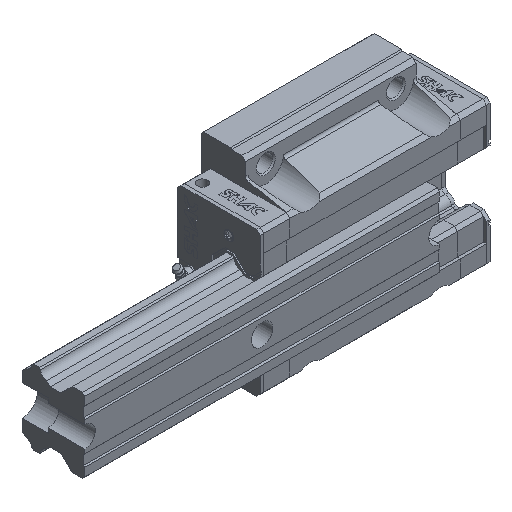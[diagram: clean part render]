
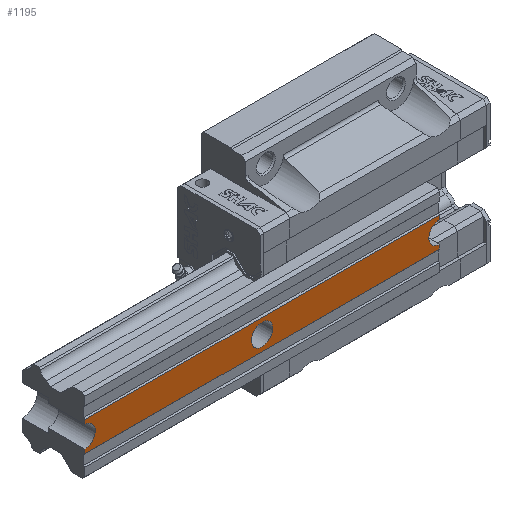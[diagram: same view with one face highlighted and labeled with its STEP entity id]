
A CAD part, isometric view. The second image highlights one B-rep face of the part: STEP entity #1195.
In plain terms, the highlighted planar face has unit normal (0, -1, 0).
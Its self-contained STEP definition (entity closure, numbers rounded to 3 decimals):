
#1195 = ADVANCED_FACE( '', ( #2561, #2562 ), #2563, .F. );
#2561 = FACE_BOUND( '', #4216, .T. );
#2562 = FACE_OUTER_BOUND( '', #4217, .T. );
#2563 = PLANE( '', #4218 );
#4216 = EDGE_LOOP( '', ( #7168 ) );
#4217 = EDGE_LOOP( '', ( #7169, #7170, #7171, #7172, #7173, #7174, #7175, #7176 ) );
#4218 = AXIS2_PLACEMENT_3D( '', #7177, #7178, #7179 );
#7168 = ORIENTED_EDGE( '', *, *, #9963, .F. );
#7169 = ORIENTED_EDGE( '', *, *, #10851, .F. );
#7170 = ORIENTED_EDGE( '', *, *, #10852, .F. );
#7171 = ORIENTED_EDGE( '', *, *, #10373, .F. );
#7172 = ORIENTED_EDGE( '', *, *, #10305, .F. );
#7173 = ORIENTED_EDGE( '', *, *, #10853, .T. );
#7174 = ORIENTED_EDGE( '', *, *, #10854, .T. );
#7175 = ORIENTED_EDGE( '', *, *, #10077, .F. );
#7176 = ORIENTED_EDGE( '', *, *, #10855, .T. );
#7177 = CARTESIAN_POINT( '', ( 150., 0., 29.5 ) );
#7178 = DIRECTION( '', ( 0., 1., 0. ) );
#7179 = DIRECTION( '', ( 0., 0., 1. ) );
#9963 = EDGE_CURVE( '', #11976, #11976, #11977, .T. );
#10077 = EDGE_CURVE( '', #12173, #12168, #12175, .T. );
#10305 = EDGE_CURVE( '', #12540, #12542, #12543, .T. );
#10373 = EDGE_CURVE( '', #12542, #12649, #12650, .T. );
#10851 = EDGE_CURVE( '', #13390, #13391, #13392, .T. );
#10852 = EDGE_CURVE( '', #12649, #13390, #13393, .T. );
#10853 = EDGE_CURVE( '', #12540, #13394, #13395, .T. );
#10854 = EDGE_CURVE( '', #13394, #12168, #13396, .T. );
#10855 = EDGE_CURVE( '', #12173, #13391, #13397, .T. );
#11976 = VERTEX_POINT( '', #14881 );
#11977 = CIRCLE( '', #14882, 9. );
#12168 = VERTEX_POINT( '', #15175 );
#12173 = VERTEX_POINT( '', #15181 );
#12175 = CIRCLE( '', #15184, 9. );
#12540 = VERTEX_POINT( '', #15727 );
#12542 = VERTEX_POINT( '', #15730 );
#12543 = LINE( '', #15731, #15732 );
#12649 = VERTEX_POINT( '', #15903 );
#12650 = CIRCLE( '', #15904, 9. );
#13390 = VERTEX_POINT( '', #16987 );
#13391 = VERTEX_POINT( '', #16988 );
#13392 = LINE( '', #16989, #16990 );
#13393 = LINE( '', #16991, #16992 );
#13394 = VERTEX_POINT( '', #16993 );
#13395 = LINE( '', #16994, #16995 );
#13396 = LINE( '', #16996, #16997 );
#13397 = LINE( '', #16998, #16999 );
#14881 = CARTESIAN_POINT( '', ( 0., 0., -9. ) );
#14882 = AXIS2_PLACEMENT_3D( '', #18494, #18495, #18496 );
#15175 = CARTESIAN_POINT( '', ( -150., 0., 9. ) );
#15181 = CARTESIAN_POINT( '', ( -150., 0., -9. ) );
#15184 = AXIS2_PLACEMENT_3D( '', #18598, #18599, #18600 );
#15727 = CARTESIAN_POINT( '', ( 150., 0., 12.5 ) );
#15730 = CARTESIAN_POINT( '', ( 150., 0., 9. ) );
#15731 = CARTESIAN_POINT( '', ( 150., 0., 29.5 ) );
#15732 = VECTOR( '', #18842, 1000. );
#15903 = CARTESIAN_POINT( '', ( 150., 0., -9. ) );
#15904 = AXIS2_PLACEMENT_3D( '', #18916, #18917, #18918 );
#16987 = CARTESIAN_POINT( '', ( 150., 0., -12.5 ) );
#16988 = CARTESIAN_POINT( '', ( -150., 0., -12.5 ) );
#16989 = CARTESIAN_POINT( '', ( 150., 0., -12.5 ) );
#16990 = VECTOR( '', #19392, 1000. );
#16991 = CARTESIAN_POINT( '', ( 150., 0., 29.5 ) );
#16992 = VECTOR( '', #19393, 1000. );
#16993 = CARTESIAN_POINT( '', ( -150., 0., 12.5 ) );
#16994 = CARTESIAN_POINT( '', ( 150., 0., 12.5 ) );
#16995 = VECTOR( '', #19394, 1000. );
#16996 = CARTESIAN_POINT( '', ( -150., 0., 29.5 ) );
#16997 = VECTOR( '', #19395, 1000. );
#16998 = CARTESIAN_POINT( '', ( -150., 0., 29.5 ) );
#16999 = VECTOR( '', #19396, 1000. );
#18494 = CARTESIAN_POINT( '', ( 0., 0., 0. ) );
#18495 = DIRECTION( '', ( 0., -1., 0. ) );
#18496 = DIRECTION( '', ( 0., 0., -1. ) );
#18598 = CARTESIAN_POINT( '', ( -150., 0., 0. ) );
#18599 = DIRECTION( '', ( 0., -1., 0. ) );
#18600 = DIRECTION( '', ( 0., 0., -1. ) );
#18842 = DIRECTION( '', ( 0., 0., -1. ) );
#18916 = CARTESIAN_POINT( '', ( 150., 0., 0. ) );
#18917 = DIRECTION( '', ( 0., -1., 0. ) );
#18918 = DIRECTION( '', ( 0., 0., -1. ) );
#19392 = DIRECTION( '', ( -1., 0., 0. ) );
#19393 = DIRECTION( '', ( 0., 0., -1. ) );
#19394 = DIRECTION( '', ( -1., 0., 0. ) );
#19395 = DIRECTION( '', ( 0., 0., -1. ) );
#19396 = DIRECTION( '', ( 0., 0., -1. ) );
